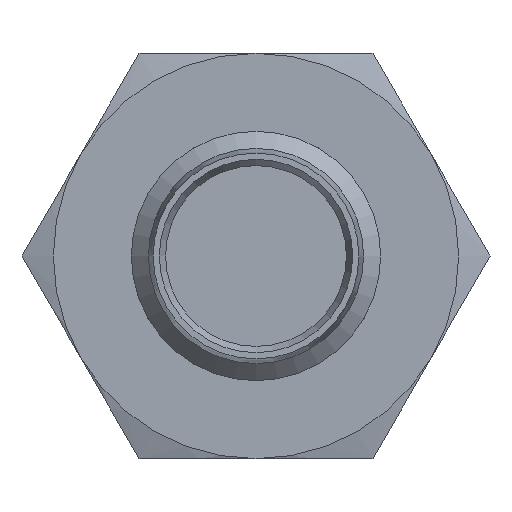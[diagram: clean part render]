
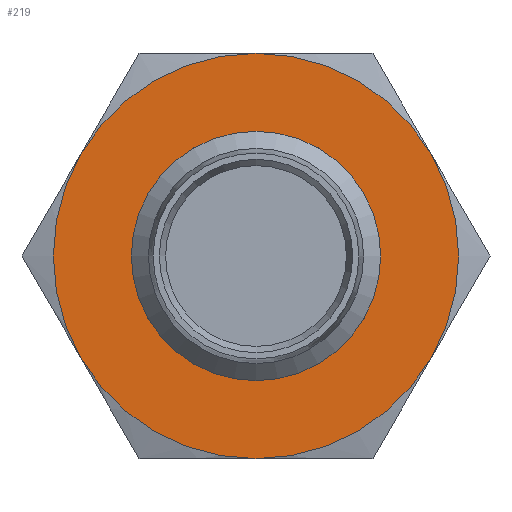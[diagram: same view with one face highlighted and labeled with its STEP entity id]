
A CAD part, left-side view. The second image highlights one B-rep face of the part: STEP entity #219.
In plain terms, the highlighted planar face has unit normal (-1, 0, 0).
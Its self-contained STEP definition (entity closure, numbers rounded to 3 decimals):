
#219 = ADVANCED_FACE( '', ( #338, #339 ), #340, .F. );
#338 = FACE_OUTER_BOUND( '', #469, .T. );
#339 = FACE_BOUND( '', #470, .T. );
#340 = PLANE( '', #471 );
#469 = EDGE_LOOP( '', ( #703, #704, #705, #706, #707, #708 ) );
#470 = EDGE_LOOP( '', ( #709 ) );
#471 = AXIS2_PLACEMENT_3D( '', #710, #711, #712 );
#703 = ORIENTED_EDGE( '', *, *, #845, .F. );
#704 = ORIENTED_EDGE( '', *, *, #846, .F. );
#705 = ORIENTED_EDGE( '', *, *, #847, .F. );
#706 = ORIENTED_EDGE( '', *, *, #843, .F. );
#707 = ORIENTED_EDGE( '', *, *, #841, .F. );
#708 = ORIENTED_EDGE( '', *, *, #842, .F. );
#709 = ORIENTED_EDGE( '', *, *, #833, .T. );
#710 = CARTESIAN_POINT( '', ( 0., 0., 0. ) );
#711 = DIRECTION( '', ( 1., 0., 0. ) );
#712 = DIRECTION( '', ( 0., 0., -1. ) );
#833 = EDGE_CURVE( '', #948, #948, #949, .T. );
#841 = EDGE_CURVE( '', #921, #939, #960, .T. );
#842 = EDGE_CURVE( '', #930, #921, #961, .T. );
#843 = EDGE_CURVE( '', #939, #962, #963, .T. );
#845 = EDGE_CURVE( '', #965, #930, #966, .T. );
#846 = EDGE_CURVE( '', #967, #965, #968, .T. );
#847 = EDGE_CURVE( '', #962, #967, #969, .T. );
#921 = VERTEX_POINT( '', #1321 );
#930 = VERTEX_POINT( '', #1345 );
#939 = VERTEX_POINT( '', #1367 );
#948 = VERTEX_POINT( '', #1382 );
#949 = CIRCLE( '', #1383, 4. );
#960 = CIRCLE( '', #1397, 6.5 );
#961 = CIRCLE( '', #1398, 6.5 );
#962 = VERTEX_POINT( '', #1399 );
#963 = CIRCLE( '', #1400, 6.5 );
#965 = VERTEX_POINT( '', #1405 );
#966 = CIRCLE( '', #1406, 6.5 );
#967 = VERTEX_POINT( '', #1407 );
#968 = CIRCLE( '', #1408, 6.5 );
#969 = CIRCLE( '', #1409, 6.5 );
#1321 = CARTESIAN_POINT( '', ( 0., 0., 6.5 ) );
#1345 = CARTESIAN_POINT( '', ( 0., 5.629, 3.25 ) );
#1367 = CARTESIAN_POINT( '', ( 0., -5.629, 3.25 ) );
#1382 = CARTESIAN_POINT( '', ( 0., 0., -4. ) );
#1383 = AXIS2_PLACEMENT_3D( '', #1529, #1530, #1531 );
#1397 = AXIS2_PLACEMENT_3D( '', #1550, #1551, #1552 );
#1398 = AXIS2_PLACEMENT_3D( '', #1553, #1554, #1555 );
#1399 = CARTESIAN_POINT( '', ( 0., -5.629, -3.25 ) );
#1400 = AXIS2_PLACEMENT_3D( '', #1556, #1557, #1558 );
#1405 = CARTESIAN_POINT( '', ( 0., 5.629, -3.25 ) );
#1406 = AXIS2_PLACEMENT_3D( '', #1559, #1560, #1561 );
#1407 = CARTESIAN_POINT( '', ( 0., 0., -6.5 ) );
#1408 = AXIS2_PLACEMENT_3D( '', #1562, #1563, #1564 );
#1409 = AXIS2_PLACEMENT_3D( '', #1565, #1566, #1567 );
#1529 = CARTESIAN_POINT( '', ( 0., 0., 0. ) );
#1530 = DIRECTION( '', ( 1., 0., 0. ) );
#1531 = DIRECTION( '', ( 0., 0., -1. ) );
#1550 = CARTESIAN_POINT( '', ( 0., 0., 0. ) );
#1551 = DIRECTION( '', ( 1., 0., 0. ) );
#1552 = DIRECTION( '', ( 0., 0., -1. ) );
#1553 = CARTESIAN_POINT( '', ( 0., 0., 0. ) );
#1554 = DIRECTION( '', ( 1., 0., 0. ) );
#1555 = DIRECTION( '', ( 0., 0., -1. ) );
#1556 = CARTESIAN_POINT( '', ( 0., 0., 0. ) );
#1557 = DIRECTION( '', ( 1., 0., 0. ) );
#1558 = DIRECTION( '', ( 0., 0., -1. ) );
#1559 = CARTESIAN_POINT( '', ( 0., 0., 0. ) );
#1560 = DIRECTION( '', ( 1., 0., 0. ) );
#1561 = DIRECTION( '', ( 0., 0., -1. ) );
#1562 = CARTESIAN_POINT( '', ( 0., 0., 0. ) );
#1563 = DIRECTION( '', ( 1., 0., 0. ) );
#1564 = DIRECTION( '', ( 0., 0., -1. ) );
#1565 = CARTESIAN_POINT( '', ( 0., 0., 0. ) );
#1566 = DIRECTION( '', ( 1., 0., 0. ) );
#1567 = DIRECTION( '', ( 0., 0., -1. ) );
